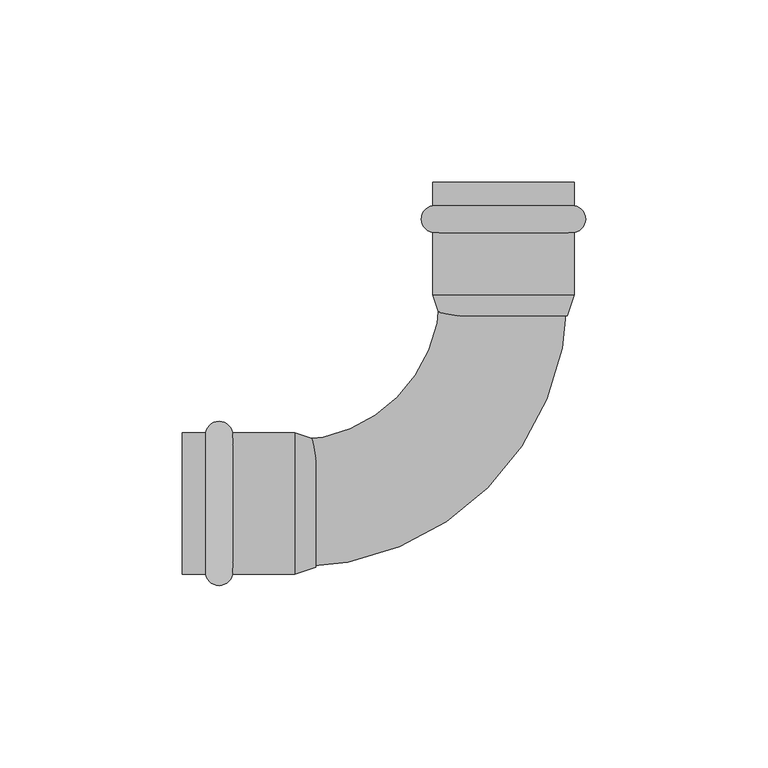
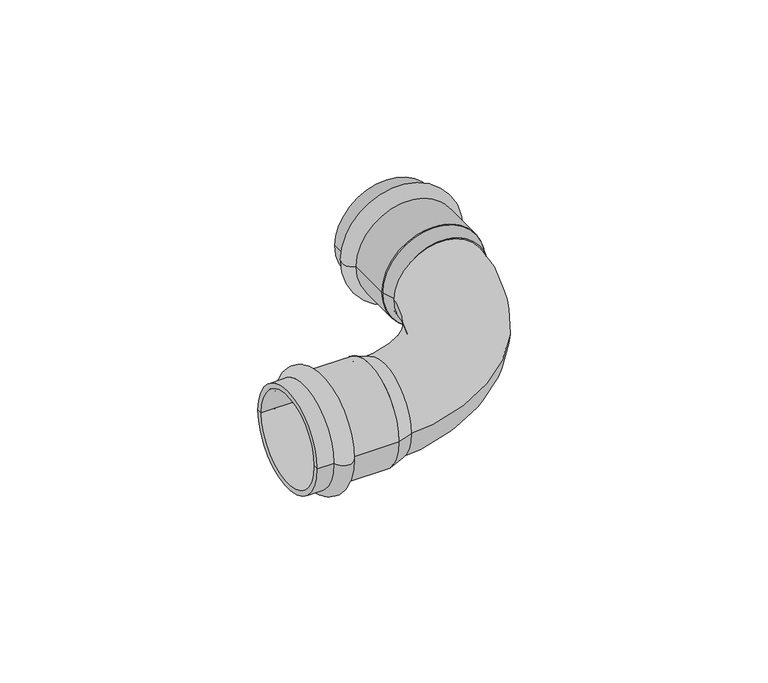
"""IFC4 building model written with IfcOpenShell, lengths in millimetres: pipe fitting geometry, VALTEC_VTi.951.I_Угольник 90° (раструб-раструб) нержавеющая сталь : VTi.951.I."""

import ifcopenshell
import ifcopenshell.guid

model = None  # the IFC model being written
_history = None  # IfcOwnerHistory: only IFC2X3 demands one
_inside = {}  # id of a spatial element -> (the spatial element, [elements in it])
_under = {}  # id of a project, library or spatial element -> (it, [spatial elements below it])
_declared = {}  # id of a project -> (the project, [libraries it declares])
_typed = {}  # id of a type object -> (the type object, [elements of that type])
_made_of = {}  # id of a material, layer set ... -> (it, [elements and type objects made of it])


def new_model(schema):
    """Start an empty IFC model of exactly this schema.

    Asked for "IFC4X3", IfcOpenShell would pick the latest addendum, in which some entities
    have other attributes; the version numbers below select the first issue.
    IFC2X3 requires an IfcOwnerHistory on every rooted entity: one is made here for all.
    """
    global model, _history
    if schema == "IFC4X3":
        model = ifcopenshell.file(schema_version=(4, 3, 0, 0))
    else:
        model = ifcopenshell.file(schema=schema)
    _inside.clear()
    _under.clear()
    _declared.clear()
    _typed.clear()
    _made_of.clear()
    _history = None
    if model.schema == "IFC2X3":
        org = make("IfcOrganization", Name="unknown")
        user = make(
            "IfcPersonAndOrganization",
            ThePerson=make("IfcPerson", FamilyName="unknown"),
            TheOrganization=org,
        )
        app = make(
            "IfcApplication",
            ApplicationDeveloper=org,
            Version="unknown",
            ApplicationFullName="unknown",
            ApplicationIdentifier="unknown",
        )
        _history = make(
            "IfcOwnerHistory",
            OwningUser=user,
            OwningApplication=app,
            ChangeAction="ADDED",
            CreationDate=0,
        )
    return model


def make(cls, **values):
    """One entity of the class cls with the attributes given. An attribute that is None is left unset."""
    return model.create_entity(
        cls, **{name: value for name, value in values.items() if value is not None}
    )


def rooted(cls, **values):
    """An entity with a GlobalId (a new one), such as an element, a storey or a relation."""
    return make(cls, GlobalId=ifcopenshell.guid.new(), OwnerHistory=_history, **values)


def si_unit(unit_type, name, prefix=None):
    """IfcSIUnit, for example si_unit("LENGTHUNIT", "METRE", prefix="MILLI")."""
    return make("IfcSIUnit", UnitType=unit_type, Prefix=prefix, Name=name)


def assignment(units):
    """IfcUnitAssignment: the units of a project."""
    return None if units is None else make("IfcUnitAssignment", Units=units)


def point(xyz):
    """IfcCartesianPoint."""
    return None if xyz is None else make("IfcCartesianPoint", Coordinates=xyz)


def direction(xyz):
    """IfcDirection."""
    return None if xyz is None else make("IfcDirection", DirectionRatios=xyz)


def frame(location, z_axis=None, x_axis=None):
    """IfcAxis2Placement3D, a coordinate frame: its origin and axes. An axis left out is left unset."""
    return make(
        "IfcAxis2Placement3D",
        Location=point(location),
        Axis=direction(z_axis),
        RefDirection=direction(x_axis),
    )


def origin():
    """The frame at (0, 0, 0) with its axes left unset."""
    return frame((0.0, 0.0, 0.0))


def place(relative_to, where):
    """IfcLocalPlacement: puts the frame where relative to a parent placement (None: the world)."""
    return make(
        "IfcLocalPlacement", PlacementRelTo=relative_to, RelativePlacement=where
    )


def context(
    kind, dimensions, precision=None, world=None, true_north=None, identifier=None
):
    """IfcGeometricRepresentationContext, for example the 3D "Model" context."""
    return make(
        "IfcGeometricRepresentationContext",
        ContextIdentifier=identifier,
        ContextType=kind,
        CoordinateSpaceDimension=dimensions,
        Precision=precision,
        WorldCoordinateSystem=world,
        TrueNorth=true_north,
    )


def project(units=None, contexts=None):
    """IfcProject with its units and contexts."""
    return rooted(
        "IfcProject",
        Name="project",
        RepresentationContexts=contexts,
        UnitsInContext=assignment(units),
    )


def spatial(cls, under=None, at=None, **own):
    """A site, building, storey or space (cls), placed at a placement, below another one or the project."""
    s = rooted(cls, ObjectPlacement=at, **own)
    if under is not None:
        _under.setdefault(under.id(), (under, []))[1].append(s)
    return s


def polyline(points):
    """IfcPolyline through the points."""
    return make("IfcPolyline", Points=[point(p) for p in points])


def circle_curve(where, radius):
    """IfcCircle in the frame where."""
    return make("IfcCircle", Position=where, Radius=radius)


def ellipse_curve(where, semi_axis1, semi_axis2):
    """IfcEllipse in the frame where."""
    return make(
        "IfcEllipse", Position=where, SemiAxis1=semi_axis1, SemiAxis2=semi_axis2
    )


def trimmed(basis, trim1, trim2, sense, master):
    """IfcTrimmedCurve: the piece of a basis curve between two trims."""
    return make(
        "IfcTrimmedCurve",
        BasisCurve=basis,
        Trim1=trim1,
        Trim2=trim2,
        SenseAgreement=sense,
        MasterRepresentation=master,
    )


def shape(context_of_items, identifier, shape_type, items):
    """IfcShapeRepresentation: the items that make up one representation, for example the "Body"."""
    return make(
        "IfcShapeRepresentation",
        ContextOfItems=context_of_items,
        RepresentationIdentifier=identifier,
        RepresentationType=shape_type,
        Items=items,
    )


def source(mapping_origin, context_of_items, identifier, shape_type, items):
    """IfcRepresentationMap: a shape defined once, which mapped items show again and again."""
    return make(
        "IfcRepresentationMap",
        MappingOrigin=mapping_origin,
        MappedRepresentation=shape(context_of_items, identifier, shape_type, items),
    )


def transform(
    local_origin,
    x_axis=None,
    y_axis=None,
    z_axis=None,
    scale=None,
    scale2=None,
    scale3=None,
    uniform=True,
):
    """IfcCartesianTransformationOperator3D, or its non-uniform kind. x_axis, y_axis, z_axis: its Axis1, 2, 3."""
    if uniform:
        return make(
            "IfcCartesianTransformationOperator3D",
            Axis1=direction(x_axis),
            Axis2=direction(y_axis),
            LocalOrigin=point(local_origin),
            Scale=scale,
            Axis3=direction(z_axis),
        )
    return make(
        "IfcCartesianTransformationOperator3DnonUniform",
        Axis1=direction(x_axis),
        Axis2=direction(y_axis),
        LocalOrigin=point(local_origin),
        Scale=scale,
        Axis3=direction(z_axis),
        Scale2=scale2,
        Scale3=scale3,
    )


def mapped(mapping_source, mapping_target):
    """IfcMappedItem: shows the shape of a source again, moved by a transform."""
    return make(
        "IfcMappedItem", MappingSource=mapping_source, MappingTarget=mapping_target
    )


def made_of(thing, what):
    """Note that an element or type object is made of a material, layer set ...; save() writes the relation."""
    if what is not None:
        _made_of.setdefault(what.id(), (what, []))[1].append(thing)
    return thing


def element(
    cls,
    number,
    at=None,
    inside=None,
    cuts=None,
    type_object=None,
    material=None,
    context=None,
    identifier="Body",
    shape_type=None,
    held_by="IfcProductDefinitionShape",
    body=None,
    shapes=None,
    **own,
):
    """One element of the class cls, such as IfcWall. Its Tag is "e" and its number.

    at: its placement. inside: the storey or other place that contains it. cuts: it is an
    opening in that element (IfcRelVoidsElement). A single representation is given by context,
    identifier, shape_type and body (its items); several are given by shapes. held_by: the class
    of the entity that holds the representations. save() writes the other relations.
    """
    e = rooted(cls, Tag="e%d" % number, ObjectPlacement=at, **own)
    if body is not None:
        shapes = [shape(context, identifier, shape_type, body)]
    if shapes is not None:
        e.Representation = make(held_by, Representations=shapes)
    if inside is not None:
        _inside.setdefault(inside.id(), (inside, []))[1].append(e)
    if cuts is not None:
        rooted(
            "IfcRelVoidsElement", RelatingBuildingElement=cuts, RelatedOpeningElement=e
        )
    if type_object is not None:
        _typed.setdefault(type_object.id(), (type_object, []))[1].append(e)
    return made_of(e, material)


def aggregate(whole, parts):
    """IfcRelAggregates: a whole, such as a stair, and the parts it consists of."""
    return rooted("IfcRelAggregates", RelatingObject=whole, RelatedObjects=parts)


def save(model, path):
    """Write the relations noted so far, then the file.

    IfcRelAggregates (storeys below a building ...), IfcRelContainedInSpatialStructure (elements
    in a storey), IfcRelDefinesByType, IfcRelAssociatesMaterial and IfcRelDeclares: one each for
    every whole, place, type object, material and project.
    """
    for whole, parts in _under.values():
        aggregate(whole, parts)
    for where, things in _inside.values():
        rooted(
            "IfcRelContainedInSpatialStructure",
            RelatedElements=things,
            RelatingStructure=where,
        )
    for kind, things in _typed.values():
        rooted("IfcRelDefinesByType", RelatedObjects=things, RelatingType=kind)
    for what, things in _made_of.values():
        rooted("IfcRelAssociatesMaterial", RelatedObjects=things, RelatingMaterial=what)
    for by, libraries in _declared.values():
        rooted("IfcRelDeclares", RelatingContext=by, RelatedDefinitions=libraries)
    model.write(path)


def plane_surface(at):
    """IfcPlane: the flat surface through the origin of the frame at, square to its z axis."""
    return make("IfcPlane", Position=at)


def cylinder_surface(at, radius):
    """IfcCylindricalSurface: all points at the distance radius from the z axis of the frame at."""
    return make("IfcCylindricalSurface", Position=at, Radius=radius)


def revolved_surface(curve, axis_point, axis_direction):
    """IfcSurfaceOfRevolution: the curve turned about the line through axis_point along axis_direction."""
    return make(
        "IfcSurfaceOfRevolution",
        SweptCurve=make("IfcArbitraryOpenProfileDef", ProfileType="CURVE", Curve=curve),
        AxisPosition=make("IfcAxis1Placement", Location=point(axis_point), Axis=direction(axis_direction)),
    )


def advanced_brep(points, edges, surfaces, faces):
    """IfcAdvancedBrep: a solid bounded by faces that lie on surfaces and meet in shared edges.

    An edge is (start, end): straight between two places in points (the first is 0);
    or (start, end, curve); or (start, end, curve, False) where it runs against its curve.
    A face is (place in surfaces, loops), or (place, loops, False) where it looks against
    its surface's normal. A loop lists edges by number (the first is 1), with a minus sign
    where the edge is run from its end to its start. The first loop is the outer one.
    """
    corners = [point(p) for p in points]
    vertices = [make("IfcVertexPoint", VertexGeometry=c) for c in corners]
    made = []
    for start, end, *more in edges:
        made.append(
            make(
                "IfcEdgeCurve",
                EdgeStart=vertices[start],
                EdgeEnd=vertices[end],
                EdgeGeometry=more[0] if more else make("IfcPolyline", Points=[corners[start], corners[end]]),
                SameSense=more[1] if len(more) > 1 else True,
            )
        )
    hull = []
    for where, loops, *sense in faces:
        bounds = []
        for j, loop in enumerate(loops):
            ring = [make("IfcOrientedEdge", EdgeElement=made[abs(k) - 1], Orientation=k > 0) for k in loop]
            bounds.append(
                make(
                    "IfcFaceOuterBound" if j == 0 else "IfcFaceBound",
                    Bound=make("IfcEdgeLoop", EdgeList=ring),
                    Orientation=True,
                )
            )
        hull.append(make("IfcAdvancedFace", Bounds=bounds, FaceSurface=surfaces[where], SameSense=sense[0] if sense else True))
    return make("IfcAdvancedBrep", Outer=make("IfcClosedShell", CfsFaces=hull))


def pipe_fitting_8f63330e(model_context):
    return source(origin(), model_context, "Body", "AdvancedBrep", [
        advanced_brep(
        [(-81.6432371, -19.4, 0.0), (-81.6432371, 19.4, 0.0), (-74.2567629, 19.4, 0.0), (-74.2567629, -19.4, 0.0), (-88.0, -19.4, 0.0), (-88.0, 19.4, 0.0), (-88.0, -17.5, 0.0), (-88.0, 17.5, 0.0), (-57.2, -17.5, 0.0), (-57.2, 17.5, 0.0), (-57.2, -19.4, 0.0), (-57.2, 19.4, 0.0)],
        [
            (0, 1, circle_curve(frame((-81.6432371, 0.0, 0.0), z_axis=(1.0, 0.0, 0.0), x_axis=(0.0, 1.0, 0.0)), 19.4)),
            (1, 2, circle_curve(frame((-77.95, 18.75, 0.0), z_axis=(0.0, 0.0, -1.0), x_axis=(1.0, 0.0, 0.0)), 3.75)),
            (2, 3, circle_curve(frame((-74.2567629, 0.0, 0.0), z_axis=(-1.0, 0.0, 0.0), x_axis=(0.0, 1.0, 0.0)), 19.4)),
            (3, 0, circle_curve(frame((-77.95, -18.75, 0.0), z_axis=(0.0, 0.0, -1.0), x_axis=(1.0, 0.0, 0.0)), 3.75)),
            (1, 0, circle_curve(frame((-81.6432371, 0.0, 0.0), z_axis=(1.0, 0.0, 0.0), x_axis=(0.0, 1.0, 0.0)), 19.4)),
            (3, 2, circle_curve(frame((-74.2567629, 0.0, 0.0), z_axis=(-1.0, 0.0, 0.0), x_axis=(0.0, 1.0, 0.0)), 19.4)),
            (4, 5, circle_curve(frame((-88.0, 0.0, 0.0), z_axis=(1.0, 0.0, 0.0), x_axis=(0.0, 1.0, 0.0)), 19.4)),
            (5, 1),
            (0, 4),
            (5, 4, circle_curve(frame((-88.0, 0.0, 0.0), z_axis=(1.0, 0.0, 0.0), x_axis=(0.0, 1.0, 0.0)), 19.4)),
            (6, 7, circle_curve(frame((-88.0, 0.0, 0.0), z_axis=(1.0, 0.0, 0.0), x_axis=(0.0, 1.0, 0.0)), 17.5)),
            (7, 5),
            (4, 6),
            (7, 6, circle_curve(frame((-88.0, 0.0, 0.0), z_axis=(1.0, 0.0, 0.0), x_axis=(0.0, 1.0, 0.0)), 17.5)),
            (8, 9, circle_curve(frame((-57.2, 0.0, 0.0), z_axis=(1.0, 0.0, 0.0), x_axis=(0.0, 1.0, 0.0)), 17.5)),
            (9, 7),
            (6, 8),
            (9, 8, circle_curve(frame((-57.2, 0.0, 0.0), z_axis=(1.0, 0.0, 0.0), x_axis=(0.0, 1.0, 0.0)), 17.5)),
            (10, 11, circle_curve(frame((-57.2, 0.0, 0.0), z_axis=(1.0, 0.0, 0.0), x_axis=(0.0, 1.0, 0.0)), 19.4)),
            (11, 9),
            (8, 10),
            (11, 10, circle_curve(frame((-57.2, 0.0, 0.0), z_axis=(1.0, 0.0, 0.0), x_axis=(0.0, 1.0, 0.0)), 19.4)),
            (2, 11),
            (10, 3),
        ],
        [
            revolved_surface(trimmed(ellipse_curve(frame((-77.95, 18.75, 0.0), z_axis=(0.0, 0.0, 1.0), x_axis=(1.0, 0.0, 0.0)), 3.75, 3.75), [point((-74.2567629, 19.4, 0.0))], [point((-81.6432371, 19.4, 0.0))], True, "CARTESIAN"), (-91.5364426, 0.0, 0.0), (-1.0, 0.0, 0.0)),
            cylinder_surface(frame((-91.5364426, 0.0, 0.0), z_axis=(-1.0, 0.0, 0.0), x_axis=(0.0, 1.0, 0.0)), 19.4),
            plane_surface(frame((-88.0, 0.0, 0.0), z_axis=(-1.0, 0.0, 0.0), x_axis=(0.0, 1.0, 0.0))),
            revolved_surface(polyline([(-88.0, 17.5, 0.0), (-57.2, 17.5, 0.0)]), (-91.5364426, 0.0, 0.0), (-1.0, 0.0, 0.0)),
            plane_surface(frame((-57.2, 0.0, 0.0), z_axis=(1.0, 0.0, 0.0), x_axis=(0.0, 1.0, 0.0))),
        ],
        [
            (0, [[1, 2, 3, 4]]),
            (0, [[5, -4, 6, -2]]),
            (1, [[7, 8, -1, 9]]),
            (1, [[10, -9, -5, -8]]),
            (2, [[11, 12, -7, 13]]),
            (2, [[14, -13, -10, -12]]),
            (3, [[15, 16, -11, 17]]),
            (3, [[18, -17, -14, -16]]),
            (4, [[19, 20, -15, 21]]),
            (4, [[22, -21, -18, -20]]),
            (1, [[-3, 23, -19, 24]]),
            (1, [[-6, -24, -22, -23]]),
        ],
    ),
        advanced_brep(
        [(-19.4, 81.6432371, 0.0), (19.4, 81.6432371, 0.0), (19.4, 74.2567629, 0.0), (-19.4, 74.2567629, 0.0), (-19.4, 88.0, 0.0), (19.4, 88.0, 0.0), (-17.5, 88.0, 0.0), (17.5, 88.0, 0.0), (-17.5, 57.2, 0.0), (17.5, 57.2, 0.0), (-19.4, 57.2, 0.0), (19.4, 57.2, 0.0)],
        [
            (0, 1, circle_curve(frame((0.0, 81.6432371, 0.0), z_axis=(0.0, -1.0, 0.0), x_axis=(1.0, 0.0, 0.0)), 19.4)),
            (1, 2, circle_curve(frame((18.75, 77.95, 0.0), z_axis=(0.0, 0.0, -1.0), x_axis=(0.0, -1.0, 0.0)), 3.75)),
            (2, 3, circle_curve(frame((0.0, 74.2567629, 0.0), z_axis=(0.0, 1.0, 0.0), x_axis=(1.0, 0.0, 0.0)), 19.4)),
            (3, 0, circle_curve(frame((-18.75, 77.95, 0.0), z_axis=(0.0, 0.0, -1.0), x_axis=(0.0, -1.0, 0.0)), 3.75)),
            (1, 0, circle_curve(frame((0.0, 81.6432371, 0.0), z_axis=(0.0, -1.0, 0.0), x_axis=(1.0, 0.0, 0.0)), 19.4)),
            (3, 2, circle_curve(frame((0.0, 74.2567629, 0.0), z_axis=(0.0, 1.0, 0.0), x_axis=(1.0, 0.0, 0.0)), 19.4)),
            (4, 5, circle_curve(frame((0.0, 88.0, 0.0), z_axis=(0.0, -1.0, 0.0), x_axis=(1.0, 0.0, 0.0)), 19.4)),
            (5, 1),
            (0, 4),
            (5, 4, circle_curve(frame((0.0, 88.0, 0.0), z_axis=(0.0, -1.0, 0.0), x_axis=(1.0, 0.0, 0.0)), 19.4)),
            (6, 7, circle_curve(frame((0.0, 88.0, 0.0), z_axis=(0.0, -1.0, 0.0), x_axis=(1.0, 0.0, 0.0)), 17.5)),
            (7, 5),
            (4, 6),
            (7, 6, circle_curve(frame((0.0, 88.0, 0.0), z_axis=(0.0, -1.0, 0.0), x_axis=(1.0, 0.0, 0.0)), 17.5)),
            (8, 9, circle_curve(frame((0.0, 57.2, 0.0), z_axis=(0.0, -1.0, 0.0), x_axis=(1.0, 0.0, 0.0)), 17.5)),
            (9, 7),
            (6, 8),
            (9, 8, circle_curve(frame((0.0, 57.2, 0.0), z_axis=(0.0, -1.0, 0.0), x_axis=(1.0, 0.0, 0.0)), 17.5)),
            (10, 11, circle_curve(frame((0.0, 57.2, 0.0), z_axis=(0.0, -1.0, 0.0), x_axis=(1.0, 0.0, 0.0)), 19.4)),
            (11, 9),
            (8, 10),
            (11, 10, circle_curve(frame((0.0, 57.2, 0.0), z_axis=(0.0, -1.0, 0.0), x_axis=(1.0, 0.0, 0.0)), 19.4)),
            (2, 11),
            (10, 3),
        ],
        [
            revolved_surface(trimmed(ellipse_curve(frame((18.75, 77.95, 0.0), z_axis=(0.0, 0.0, 1.0), x_axis=(0.0, -1.0, 0.0)), 3.75, 3.75), [point((19.4, 74.2567629, 0.0))], [point((19.4, 81.6432371, 0.0))], True, "CARTESIAN"), (0.0, 91.5364426, 0.0), (0.0, 1.0, 0.0)),
            cylinder_surface(frame((0.0, 91.5364426, 0.0), z_axis=(0.0, 1.0, 0.0), x_axis=(1.0, 0.0, 0.0)), 19.4),
            plane_surface(frame((0.0, 88.0, 0.0), z_axis=(0.0, 1.0, 0.0), x_axis=(1.0, 0.0, 0.0))),
            revolved_surface(polyline([(17.5, 88.0, 0.0), (17.5, 57.2, 0.0)]), (0.0, 91.5364426, 0.0), (0.0, 1.0, 0.0)),
            plane_surface(frame((0.0, 57.2, 0.0), z_axis=(0.0, -1.0, 0.0), x_axis=(1.0, 0.0, 0.0))),
        ],
        [
            (0, [[1, 2, 3, 4]]),
            (0, [[5, -4, 6, -2]]),
            (1, [[7, 8, -1, 9]]),
            (1, [[10, -9, -5, -8]]),
            (2, [[11, 12, -7, 13]]),
            (2, [[14, -13, -10, -12]]),
            (3, [[15, 16, -11, 17]]),
            (3, [[18, -17, -14, -16]]),
            (4, [[19, 20, -15, 21]]),
            (4, [[22, -21, -18, -20]]),
            (1, [[-3, 23, -19, 24]]),
            (1, [[-6, -24, -22, -23]]),
        ],
    ),
        advanced_brep(
        [(-57.2, -19.4, 0.0), (-57.2, 19.4, 0.0), (-51.48, -17.5, 0.0), (-51.48, 17.5, 0.0)],
        [
            (0, 1, circle_curve(frame((-57.2, 0.0, 0.0), z_axis=(-1.0, 0.0, 0.0), x_axis=(0.0, -1.0, 0.0)), 19.4)),
            (1, 0, circle_curve(frame((-57.2, 0.0, 0.0), z_axis=(-1.0, 0.0, 0.0), x_axis=(0.0, 1.0, 0.0)), 19.4)),
            (2, 3, circle_curve(frame((-51.48, 0.0, 0.0), z_axis=(1.0, 0.0, 0.0), x_axis=(0.0, 1.0, 0.0)), 17.5)),
            (3, 2, circle_curve(frame((-51.48, 0.0, 0.0), z_axis=(1.0, 0.0, 0.0), x_axis=(0.0, -1.0, 0.0)), 17.5)),
            (2, 0),
            (1, 3),
        ],
        [
            plane_surface(frame((-57.2, 0.0, 0.0), z_axis=(-1.0, 0.0, 0.0), x_axis=(0.0, 0.0, -1.0))),
            plane_surface(frame((-51.48, 0.0, 0.0), z_axis=(1.0, 0.0, 0.0), x_axis=(0.0, 0.0, -1.0))),
            revolved_surface(polyline([(-51.48, -17.499999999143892, 0.0), (-57.2, -19.4, 0.0)]), (1.2042105, 0.0, 0.0), (-1.0, 0.0, 0.0)),
            revolved_surface(polyline([(-51.48, 17.499999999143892, 0.0), (-57.2, 19.4, 0.0)]), (1.2042105, 0.0, 0.0), (-1.0, 0.0, 0.0)),
        ],
        [
            (0, [[1, 2]]),
            (1, [[3, 4]]),
            (2, [[-3, 5, -2, 6]]),
            (3, [[-4, -6, -1, -5]]),
        ],
    ),
        advanced_brep(
        [(-19.4, 57.2, 0.0), (19.4, 57.2, 0.0), (-17.5, 51.48, 0.0), (17.5, 51.48, 0.0)],
        [
            (0, 1, circle_curve(frame((0.0, 57.2, 0.0), z_axis=(0.0, 1.0, 0.0), x_axis=(-1.0, 0.0, 0.0)), 19.4)),
            (1, 0, circle_curve(frame((0.0, 57.2, 0.0), z_axis=(0.0, 1.0, 0.0), x_axis=(1.0, 0.0, 0.0)), 19.4)),
            (2, 3, circle_curve(frame((0.0, 51.48, 0.0), z_axis=(0.0, -1.0, 0.0), x_axis=(1.0, 0.0, 0.0)), 17.5)),
            (3, 2, circle_curve(frame((0.0, 51.48, 0.0), z_axis=(0.0, -1.0, 0.0), x_axis=(-1.0, 0.0, 0.0)), 17.5)),
            (2, 0),
            (1, 3),
        ],
        [
            plane_surface(frame((0.0, 57.2, 0.0), z_axis=(0.0, 1.0, 0.0), x_axis=(0.0, 0.0, -1.0))),
            plane_surface(frame((0.0, 51.48, 0.0), z_axis=(0.0, -1.0, 0.0), x_axis=(0.0, 0.0, -1.0))),
            revolved_surface(polyline([(-17.499999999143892, 51.48, 0.0), (-19.4, 57.2, 0.0)]), (0.0, -1.2042105, 0.0), (0.0, 1.0, 0.0)),
            revolved_surface(polyline([(17.499999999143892, 51.48, 0.0), (19.4, 57.2, 0.0)]), (0.0, -1.2042105, 0.0), (0.0, 1.0, 0.0)),
        ],
        [
            (0, [[1, 2]]),
            (1, [[3, 4]]),
            (2, [[-3, 5, -2, 6]]),
            (3, [[-4, -6, -1, -5]]),
        ],
    ),
        advanced_brep(
        [(-57.2, -17.5551605, 0.0), (-57.2, 17.4448395, 0.0), (17.5551605, 57.2, 0.0), (-17.4448395, 57.2, 0.0)],
        [
            (0, 1, circle_curve(frame((-57.2, -0.0551605, 0.0), z_axis=(-1.0, 0.0, 0.0), x_axis=(0.0, 1.0, 0.0)), 17.5)),
            (1, 0, circle_curve(frame((-57.2, -0.0551605, 0.0), z_axis=(-1.0, 0.0, 0.0), x_axis=(0.0, 1.0, 0.0)), 17.5)),
            (2, 3, circle_curve(frame((0.0551605, 57.2, 0.0), z_axis=(0.0, 1.0, 0.0), x_axis=(-1.0, 0.0, 0.0)), 17.5)),
            (3, 2, circle_curve(frame((0.0551605, 57.2, 0.0), z_axis=(0.0, 1.0, 0.0), x_axis=(-1.0, 0.0, 0.0)), 17.5)),
            (3, 1, circle_curve(frame((-57.2, 57.2, 0.0), z_axis=(0.0, 0.0, -1.0), x_axis=(0.0, -1.0, 0.0)), 39.7551605)),
            (0, 2, circle_curve(frame((-57.2, 57.2, 0.0), z_axis=(0.0, 0.0, 1.0), x_axis=(0.0, -1.0, 0.0)), 74.7551605)),
        ],
        [
            plane_surface(frame((-57.2, 0.0, 0.0), z_axis=(-1.0, 0.0, 0.0), x_axis=(0.0, 0.0, 1.0))),
            plane_surface(frame((0.0, 57.2, 0.0), z_axis=(0.0, 1.0, 0.0), x_axis=(0.0, 0.0, 1.0))),
            revolved_surface(trimmed(ellipse_curve(frame((-57.2, -0.0551605, 0.0), z_axis=(-1.0, 0.0, 0.0), x_axis=(0.0, 1.0, 0.0)), 17.5, 17.5), [point((-57.2, -17.5551605, 0.0))], [point((-57.2, 17.4448395, 0.0))], True, "CARTESIAN"), (-57.2, 57.2, 0.0), (0.0, 0.0, 1.0)),
            revolved_surface(trimmed(ellipse_curve(frame((-57.2, -0.0551605, 0.0), z_axis=(-1.0, 0.0, 0.0), x_axis=(0.0, 1.0, 0.0)), 17.5, 17.5), [point((-57.2, 17.4448395, 0.0))], [point((-57.2, -17.5551605, 0.0))], True, "CARTESIAN"), (-57.2, 57.2, 0.0), (0.0, 0.0, 1.0)),
        ],
        [
            (0, [[1, 2]]),
            (1, [[3, 4]]),
            (2, [[5, -1, 6, -4]]),
            (3, [[-6, -2, -5, -3]]),
        ],
    ),
    ])


if __name__ == "__main__":
    model = new_model("IFC4")
    model_context = context("Model", 3, world=origin())
    ifc_project = project(units=[si_unit("LENGTHUNIT", "METRE", prefix="MILLI")], contexts=[model_context])
    site = spatial("IfcSite", under=ifc_project)
    building = spatial("IfcBuilding", under=site)
    placement = place(None, origin())
    pipe_fitting_shape = pipe_fitting_8f63330e(model_context)
    element("IfcPipeFitting", 1, ObjectType="VALTEC_VTi.951.I_Угольник 90° (раструб-раструб) нержавеющая сталь : VTi.951.I", at=placement, inside=building, context=model_context, shape_type="MappedRepresentation", body=[
        mapped(pipe_fitting_shape, transform((0.0, 0.0, 0.0), x_axis=(1.0, 0.0, 0.0), y_axis=(0.0, 1.0, 0.0), z_axis=(0.0, 0.0, 1.0))),
    ])
    save(model, "model.ifc")
